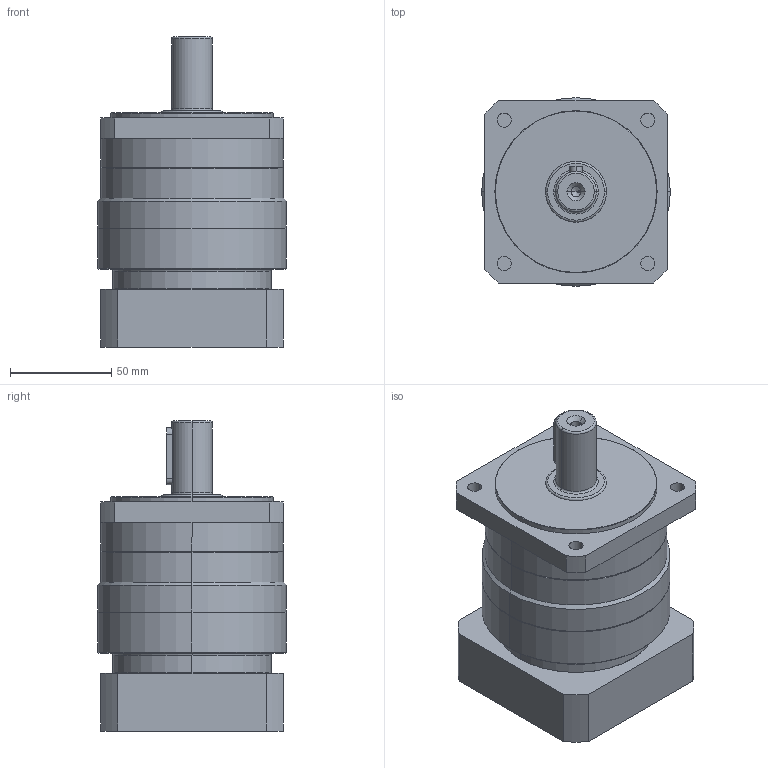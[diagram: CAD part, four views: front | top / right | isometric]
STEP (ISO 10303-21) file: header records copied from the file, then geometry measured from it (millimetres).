
FILE_DESCRIPTION (( 'STEP AP214' ), '1' );
FILE_NAME ('FB-090-L1-S2-P2 19-70-90-M6.STEP', '2023-08-12T06:16:42', ( '微软用户' ), ( '微软中国' ), 'SwSTEP 2.0', 'SolidWorks 2018', '' );
FILE_SCHEMA (( 'AUTOMOTIVE_DESIGN' ));
Length unit declared in the file: millimetre
Products named in the file (1): FB-090-L1-S2-P2 19-70-90-M6
Bounding box: 93 x 93 x 153 mm (x, y, z)
Volume: 730691 mm3; surface area: 72156.8 mm2
Topology: 1 solids, 1 shells, 110 faces, 247 edges, 151 vertices
Faces by surface type: cylinder 50, plane 32, cone 20, torus 8
Entity records: 3193 total; most frequent: DIRECTION 595, CARTESIAN_POINT 570, ORIENTED_EDGE 490, EDGE_CURVE 245, AXIS2_PLACEMENT_3D 242, VERTEX_POINT 151, EDGE_LOOP 132, CIRCLE 131
